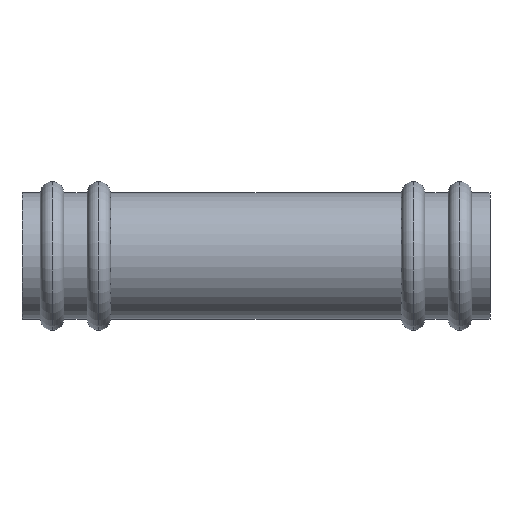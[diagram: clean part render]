
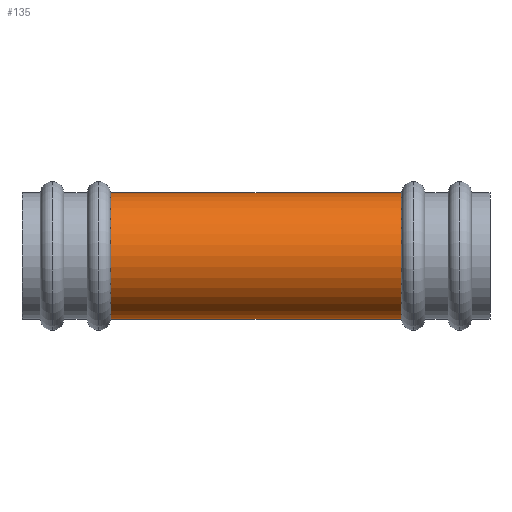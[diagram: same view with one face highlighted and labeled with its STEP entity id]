
A CAD part, front view. The second image highlights one B-rep face of the part: STEP entity #135.
In plain terms, the highlighted cylindrical face has radius 18.85 mm (diameter 37.7 mm), a partial arc.
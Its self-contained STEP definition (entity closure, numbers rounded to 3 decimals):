
#135=ADVANCED_FACE('',(#313),#314,.T.);
#313=FACE_OUTER_BOUND('',#549,.T.);
#314=CYLINDRICAL_SURFACE('',#550,18.85);
#549=EDGE_LOOP('',(#879,#880,#881,#882));
#550=AXIS2_PLACEMENT_3D('',#883,#884,#885);
#879=ORIENTED_EDGE('',*,*,#1362,.F.);
#880=ORIENTED_EDGE('',*,*,#1363,.F.);
#881=ORIENTED_EDGE('',*,*,#1364,.F.);
#882=ORIENTED_EDGE('',*,*,#1365,.F.);
#883=CARTESIAN_POINT('',(91.75,0.0,0.));
#884=DIRECTION('',(1.0,0.0,-0.0));
#885=DIRECTION('',(0.0,0.0,1.0));
#1362=EDGE_CURVE('',#1617,#1618,#1619,.T.);
#1363=EDGE_CURVE('',#1620,#1617,#1621,.T.);
#1364=EDGE_CURVE('',#1622,#1620,#1623,.T.);
#1365=EDGE_CURVE('',#1618,#1622,#1624,.T.);
#1617=VERTEX_POINT('',#1920);
#1618=VERTEX_POINT('',#1921);
#1619=LINE('',#1922,#1923);
#1620=VERTEX_POINT('',#1924);
#1621=CIRCLE('',#1925,18.85);
#1622=VERTEX_POINT('',#1926);
#1623=LINE('',#1927,#1928);
#1624=CIRCLE('',#1929,18.85);
#1920=CARTESIAN_POINT('',(26.5,0.,18.85));
#1921=CARTESIAN_POINT('',(113.5,0.,18.85));
#1922=CARTESIAN_POINT('',(91.75,0.,18.85));
#1923=VECTOR('',#2286,1.0);
#1924=CARTESIAN_POINT('',(26.5,0.,-18.85));
#1925=AXIS2_PLACEMENT_3D('',#2287,#2288,#2289);
#1926=CARTESIAN_POINT('',(113.5,0.,-18.85));
#1927=CARTESIAN_POINT('',(91.75,0.,-18.85));
#1928=VECTOR('',#2290,1.0);
#1929=AXIS2_PLACEMENT_3D('',#2291,#2292,#2293);
#2286=DIRECTION('',(1.0,0.0,0.0));
#2287=CARTESIAN_POINT('',(26.5,0.0,0.));
#2288=DIRECTION('',(-1.0,0.0,0.));
#2289=DIRECTION('',(0.,0.0,-1.0));
#2290=DIRECTION('',(-1.0,-0.0,-0.0));
#2291=CARTESIAN_POINT('',(113.5,0.0,0.));
#2292=DIRECTION('',(1.0,0.0,-0.0));
#2293=DIRECTION('',(0.0,0.0,1.0));
